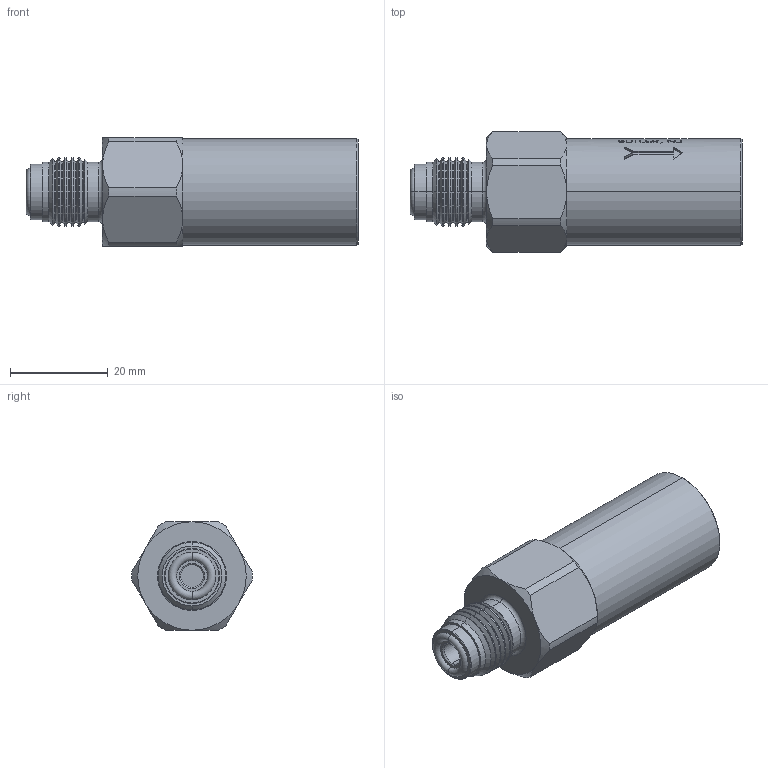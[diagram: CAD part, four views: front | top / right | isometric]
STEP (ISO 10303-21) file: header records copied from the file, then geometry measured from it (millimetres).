
FILE_DESCRIPTION (( 'STEP AP203' ), '1' );
FILE_NAME ('IRV-4V.STEP', '2020-08-13T15:06:13', ( '' ), ( '' ), 'SwSTEP 2.0', 'SolidWorks 2020', '' );
FILE_SCHEMA (( 'CONFIG_CONTROL_DESIGN' ));
Length unit declared in the file: inch
Products named in the file (2): Part6^IRV-4V; IRV-4V
Assembly tree (1 placements, depth 2):
  IRV-4V
    Part6^IRV-4V
Bounding box: 68.07 x 24.76 x 22.23 mm (x, y, z)
Volume: 18643.8 mm3; surface area: 6272.6 mm2
Topology: 1 solids, 1 shells, 322 faces, 808 edges, 515 vertices
Faces by surface type: plane 143, bspline 70, cylinder 59, cone 46, torus 4
Entity records: 14411 total; most frequent: CARTESIAN_POINT 7050, ORIENTED_EDGE 1612, DIRECTION 1284, EDGE_CURVE 806, VERTEX_POINT 515, AXIS2_PLACEMENT_3D 484, EDGE_LOOP 351, FACE_OUTER_BOUND 322
